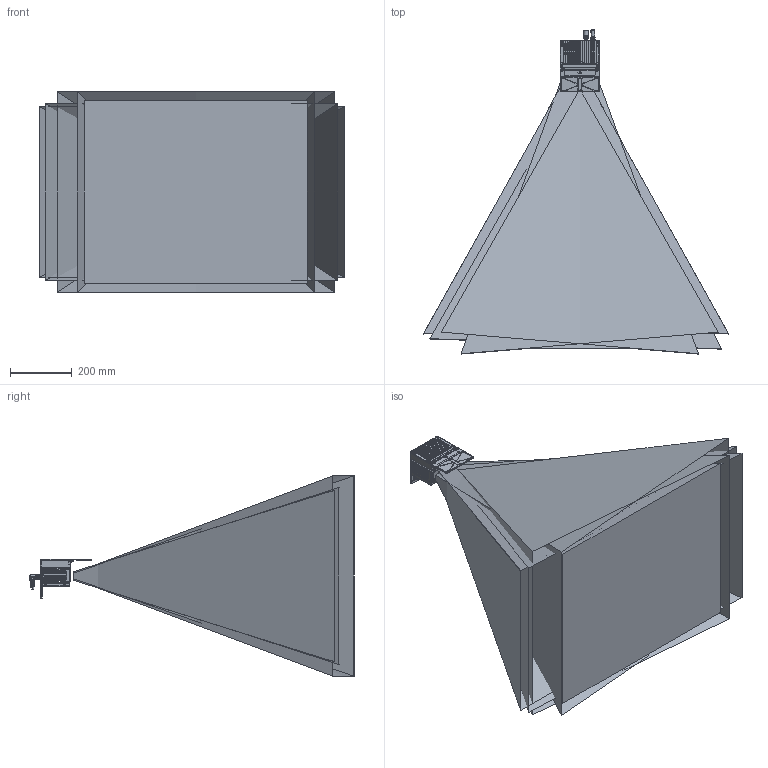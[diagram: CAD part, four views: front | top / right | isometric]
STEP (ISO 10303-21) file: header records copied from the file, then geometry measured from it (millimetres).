
FILE_DESCRIPTION((''),'2;1');
FILE_NAME('00-V069-ZZ-DPS250P-HZ_ASM_ASM','2026-08-03T21:50:48',('yangtao11'),(''),'CREO PARAMETRIC BY PTC INC, 2020044','CREO PARAMETRIC BY PTC INC, 2020044','');
FILE_SCHEMA(('CONFIG_CONTROL_DESIGN','SHAPE_APPEARANCE_LAYERS_GROUPS'));
Products named in the file (8): 00-V069-ZZ-DPS200P-RG_SW0003_1; 00-V069-ZZ-DPS200P-RG_SW0002_1; 410215147-12PIN-PWR-L_1; 410215160-8PIN-LAN-L_1; DE-14-085638_SW0001_2; SC-PSF0M3X8-BNI--SUS_SW0001_2; 00-V069-ZZ-DPS250P-HZ_ASM_3_ASM; 00-V069-ZZ-DPS250P-HZ_ASM_ASM
Assembly tree (10 placements, depth 3):
  00-V069-ZZ-DPS250P-HZ_ASM_ASM
    00-V069-ZZ-DPS250P-HZ_ASM_3_ASM
      00-V069-ZZ-DPS200P-RG_SW0003_1
      00-V069-ZZ-DPS200P-RG_SW0002_1
      410215147-12PIN-PWR-L_1
      410215160-8PIN-LAN-L_1
      DE-14-085638_SW0001_2
      SC-PSF0M3X8-BNI--SUS_SW0001_2  x4
Bounding box: 984.62 x 1046.07 x 646.27 mm (x, y, z)
Surface area: 7612347.6 mm2 (no closed solid volume)
Topology: 0 solids, 128 shells, 3321 faces, 10386 edges, 7122 vertices
Faces by surface type: plane 1755, cylinder 852, cone 478, bspline 122, torus 104, extrusion 6, sphere 4
Entity records: 149404 total; most frequent: CARTESIAN_POINT 63262, DIRECTION 17280, ORIENTED_EDGE 17226, EDGE_CURVE 9885, VERTEX_POINT 6819, VECTOR 5770, LINE 5764, AXIS2_PLACEMENT_3D 5755
